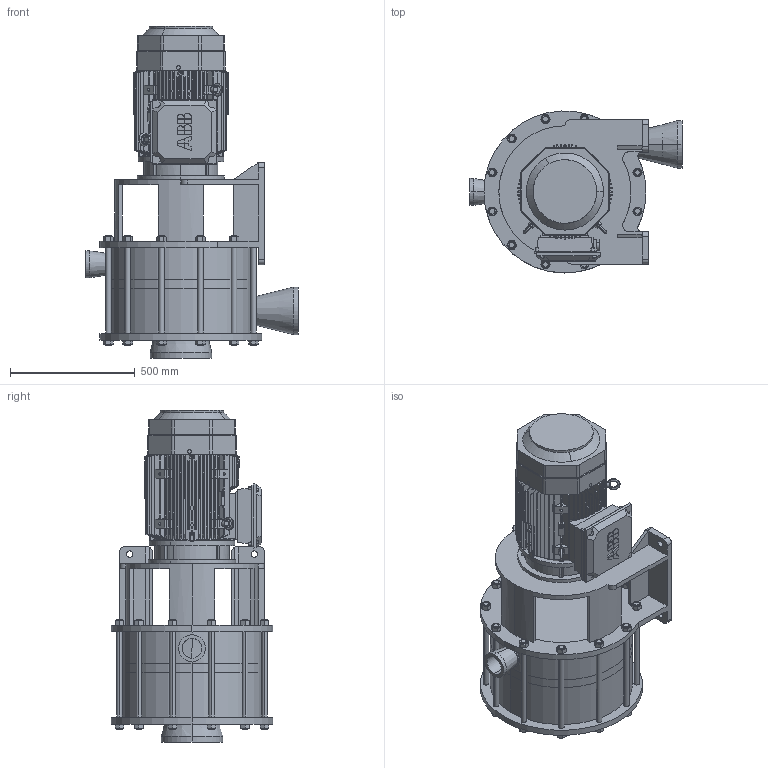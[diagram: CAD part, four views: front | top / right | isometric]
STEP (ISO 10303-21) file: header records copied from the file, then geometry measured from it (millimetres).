
FILE_DESCRIPTION((''),'2;1');
FILE_NAME('MJ150 Plastic--180M frame.stp','2010-08-04T14:28:06',(''),(''),'AutoCAD STEP 2000i','AutoCAD 2000i',', , ');
FILE_SCHEMA(('CONFIG_CONTROL_DESIGN'));
Length unit declared in the file: millimetre
Products named in the file (6): MJ150 PLASTIC--180M FRAME A; Motor; M3BP180ML; M3BP160MLB4 (long); AnyA; Any
Assembly tree (3 placements, depth 2):
  MJ150 PLASTIC--180M FRAME A
    Motor
    M3BP180ML
    M3BP160MLB4 (long)
  AnyA
  Any
Bounding box: 851 x 650 x 1332.25 mm (x, y, z)
Volume: 171886161.7 mm3; surface area: 7756477.3 mm2
Topology: 24 solids, 192 shells, 2855 faces, 7658 edges, 4935 vertices
Faces by surface type: plane 996, torus 672, bspline 540, cylinder 537, cone 110
Entity records: 95688 total; most frequent: CARTESIAN_POINT 28734, ORIENTED_EDGE 15232, DIRECTION 12867, EDGE_CURVE 7616, AXIS2_PLACEMENT_3D 5241, VERTEX_POINT 4935, EDGE_LOOP 3073, CIRCLE 2920
